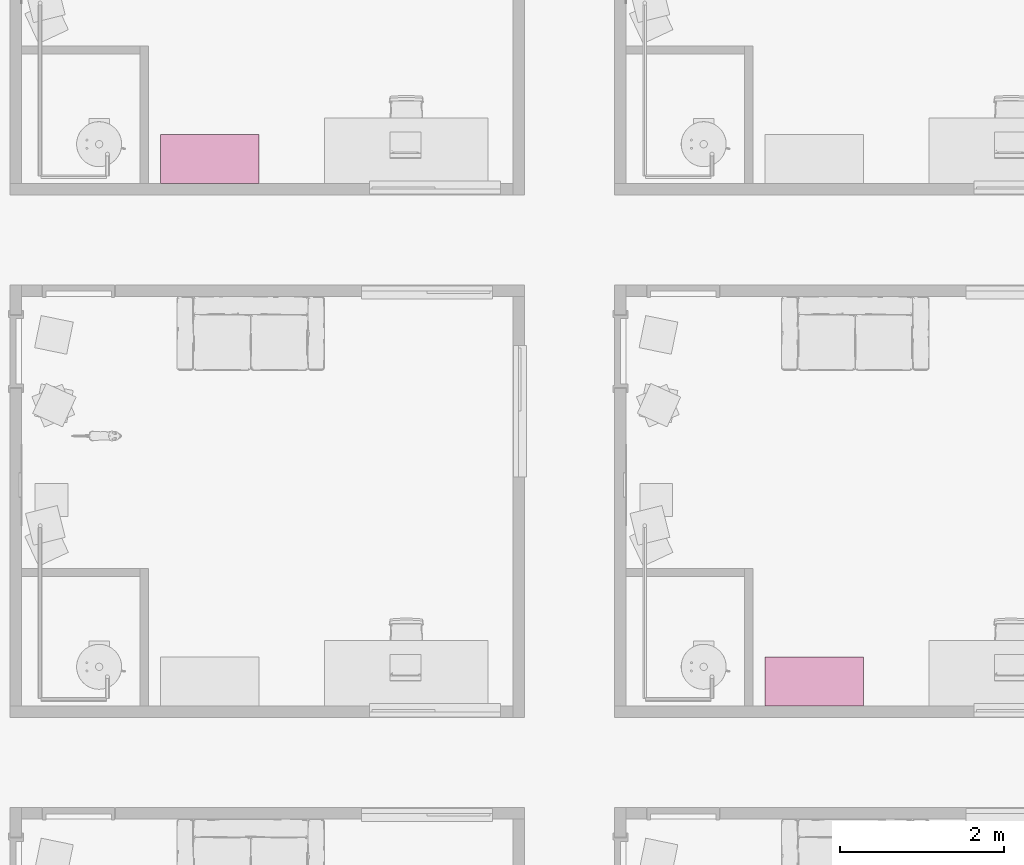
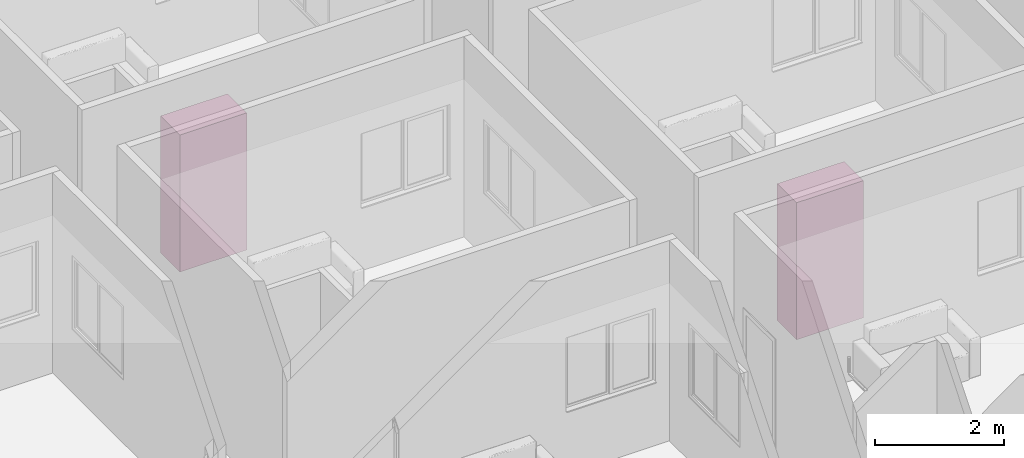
# One storey, part 69 of 71: 2 furniture elements.
"""IFC4 building model written with IfcOpenShell, lengths in centimetres."""

import ifcopenshell
import ifcopenshell.guid

model = None  # the IFC model being written
_history = None  # IfcOwnerHistory: only IFC2X3 demands one
_inside = {}  # id of a spatial element -> (the spatial element, [elements in it])
_under = {}  # id of a project, library or spatial element -> (it, [spatial elements below it])
_declared = {}  # id of a project -> (the project, [libraries it declares])
_typed = {}  # id of a type object -> (the type object, [elements of that type])
_made_of = {}  # id of a material, layer set ... -> (it, [elements and type objects made of it])


def new_model(schema):
    """Start an empty IFC model of exactly this schema.

    Asked for "IFC4X3", IfcOpenShell would pick the latest addendum, in which some entities
    have other attributes; the version numbers below select the first issue.
    IFC2X3 requires an IfcOwnerHistory on every rooted entity: one is made here for all.
    """
    global model, _history
    if schema == "IFC4X3":
        model = ifcopenshell.file(schema_version=(4, 3, 0, 0))
    else:
        model = ifcopenshell.file(schema=schema)
    _inside.clear()
    _under.clear()
    _declared.clear()
    _typed.clear()
    _made_of.clear()
    _history = None
    if model.schema == "IFC2X3":
        org = make("IfcOrganization", Name="unknown")
        user = make(
            "IfcPersonAndOrganization",
            ThePerson=make("IfcPerson", FamilyName="unknown"),
            TheOrganization=org,
        )
        app = make(
            "IfcApplication",
            ApplicationDeveloper=org,
            Version="unknown",
            ApplicationFullName="unknown",
            ApplicationIdentifier="unknown",
        )
        _history = make(
            "IfcOwnerHistory",
            OwningUser=user,
            OwningApplication=app,
            ChangeAction="ADDED",
            CreationDate=0,
        )
    return model


def make(cls, **values):
    """One entity of the class cls with the attributes given. An attribute that is None is left unset."""
    return model.create_entity(
        cls, **{name: value for name, value in values.items() if value is not None}
    )


def entity(cls, *values):
    """Any entity or typed value of the class cls, its attributes in the order of the schema. None: left unset."""
    e = model.create_entity(cls)
    for i, value in enumerate(values):
        if value is not None:
            e[i] = value
    return e


def rooted(cls, **values):
    """An entity with a GlobalId (a new one), such as an element, a storey or a relation."""
    return make(cls, GlobalId=ifcopenshell.guid.new(), OwnerHistory=_history, **values)


def si_unit(unit_type, name, prefix=None):
    """IfcSIUnit, for example si_unit("LENGTHUNIT", "METRE", prefix="MILLI")."""
    return make("IfcSIUnit", UnitType=unit_type, Prefix=prefix, Name=name)


def converted_unit(unit_type, name, factor, base, dimensions=None, offset=None):
    """IfcConversionBasedUnit, such as the inch: factor (a typed value) times the base unit."""
    return make(
        "IfcConversionBasedUnit"
        if offset is None
        else "IfcConversionBasedUnitWithOffset",
        ConversionOffset=offset,
        Dimensions=None
        if dimensions is None
        else entity("IfcDimensionalExponents", *dimensions),
        UnitType=unit_type,
        Name=name,
        ConversionFactor=make(
            "IfcMeasureWithUnit", ValueComponent=factor, UnitComponent=base
        ),
    )


def derived_unit(unit_type, elements):
    """IfcDerivedUnit: a product of units, each with its exponent."""
    return make(
        "IfcDerivedUnit",
        Elements=[
            make("IfcDerivedUnitElement", Unit=unit, Exponent=power)
            for unit, power in elements
        ],
        UnitType=unit_type,
    )


def assignment(units):
    """IfcUnitAssignment: the units of a project."""
    return None if units is None else make("IfcUnitAssignment", Units=units)


def point(xyz):
    """IfcCartesianPoint."""
    return None if xyz is None else make("IfcCartesianPoint", Coordinates=xyz)


def direction(xyz):
    """IfcDirection."""
    return None if xyz is None else make("IfcDirection", DirectionRatios=xyz)


def frame(location, z_axis=None, x_axis=None):
    """IfcAxis2Placement3D, a coordinate frame: its origin and axes. An axis left out is left unset."""
    return make(
        "IfcAxis2Placement3D",
        Location=point(location),
        Axis=direction(z_axis),
        RefDirection=direction(x_axis),
    )


def origin():
    """The frame at (0, 0, 0) with its axes left unset."""
    return frame((0.0, 0.0, 0.0))


def place(relative_to, where):
    """IfcLocalPlacement: puts the frame where relative to a parent placement (None: the world)."""
    return make(
        "IfcLocalPlacement", PlacementRelTo=relative_to, RelativePlacement=where
    )


def context(
    kind, dimensions, precision=None, world=None, true_north=None, identifier=None
):
    """IfcGeometricRepresentationContext, for example the 3D "Model" context."""
    return make(
        "IfcGeometricRepresentationContext",
        ContextIdentifier=identifier,
        ContextType=kind,
        CoordinateSpaceDimension=dimensions,
        Precision=precision,
        WorldCoordinateSystem=world,
        TrueNorth=true_north,
    )


def subcontext(parent, identifier, kind, view, scale=None):
    """IfcGeometricRepresentationSubContext, for example "Body" below "Model"."""
    return make(
        "IfcGeometricRepresentationSubContext",
        ContextIdentifier=identifier,
        ContextType=kind,
        ParentContext=parent,
        TargetScale=scale,
        TargetView=view,
    )


def project(units=None, contexts=None):
    """IfcProject with its units and contexts."""
    return rooted(
        "IfcProject",
        Name="project",
        RepresentationContexts=contexts,
        UnitsInContext=assignment(units),
    )


def spatial(cls, under=None, at=None, **own):
    """A site, building, storey or space (cls), placed at a placement, below another one or the project."""
    s = rooted(cls, ObjectPlacement=at, **own)
    if under is not None:
        _under.setdefault(under.id(), (under, []))[1].append(s)
    return s


def point_list(points):
    """IfcCartesianPointList2D or 3D."""
    cls = (
        "IfcCartesianPointList2D" if len(points[0]) == 2 else "IfcCartesianPointList3D"
    )
    return make(cls, CoordList=points)


def indexed_curve(points, segments=None, self_intersect=None):
    """IfcIndexedPolyCurve: lines and arcs through numbered points (the first is 1)."""
    return make(
        "IfcIndexedPolyCurve",
        Points=point_list(points),
        Segments=segments,
        SelfIntersect=self_intersect,
    )


def outline(outer, holes=None, kind="AREA"):
    """IfcArbitraryClosedProfileDef: a profile drawn as a closed curve; with holes, ...WithVoids."""
    if holes is None:
        return make("IfcArbitraryClosedProfileDef", ProfileType=kind, OuterCurve=outer)
    return make(
        "IfcArbitraryProfileDefWithVoids",
        ProfileType=kind,
        OuterCurve=outer,
        InnerCurves=holes,
    )


def extrude(swept, where, along, depth):
    """IfcExtrudedAreaSolid: the profile swept, set in the frame where, extruded along a direction by depth."""
    return make(
        "IfcExtrudedAreaSolid",
        SweptArea=swept,
        Position=where,
        ExtrudedDirection=direction(along),
        Depth=depth,
    )


def shape(context_of_items, identifier, shape_type, items):
    """IfcShapeRepresentation: the items that make up one representation, for example the "Body"."""
    return make(
        "IfcShapeRepresentation",
        ContextOfItems=context_of_items,
        RepresentationIdentifier=identifier,
        RepresentationType=shape_type,
        Items=items,
    )


def source(mapping_origin, context_of_items, identifier, shape_type, items):
    """IfcRepresentationMap: a shape defined once, which mapped items show again and again."""
    return make(
        "IfcRepresentationMap",
        MappingOrigin=mapping_origin,
        MappedRepresentation=shape(context_of_items, identifier, shape_type, items),
    )


def transform(
    local_origin,
    x_axis=None,
    y_axis=None,
    z_axis=None,
    scale=None,
    scale2=None,
    scale3=None,
    uniform=True,
):
    """IfcCartesianTransformationOperator3D, or its non-uniform kind. x_axis, y_axis, z_axis: its Axis1, 2, 3."""
    if uniform:
        return make(
            "IfcCartesianTransformationOperator3D",
            Axis1=direction(x_axis),
            Axis2=direction(y_axis),
            LocalOrigin=point(local_origin),
            Scale=scale,
            Axis3=direction(z_axis),
        )
    return make(
        "IfcCartesianTransformationOperator3DnonUniform",
        Axis1=direction(x_axis),
        Axis2=direction(y_axis),
        LocalOrigin=point(local_origin),
        Scale=scale,
        Axis3=direction(z_axis),
        Scale2=scale2,
        Scale3=scale3,
    )


def mapped(mapping_source, mapping_target):
    """IfcMappedItem: shows the shape of a source again, moved by a transform."""
    return make(
        "IfcMappedItem", MappingSource=mapping_source, MappingTarget=mapping_target
    )


def material(Name=None, Category=None):
    """IfcMaterial."""
    return make("IfcMaterial", Name=Name, Category=Category)


def made_of(thing, what):
    """Note that an element or type object is made of a material, layer set ...; save() writes the relation."""
    if what is not None:
        _made_of.setdefault(what.id(), (what, []))[1].append(thing)
    return thing


def type_object(cls, material=None, **own):
    """A type object (cls), such as IfcWallType, which elements share."""
    return made_of(rooted(cls, **own), material)


def type_shapes(of_type, sources):
    """Give a type object the sources (RepresentationMaps) that its elements show as mapped items."""
    of_type.RepresentationMaps = sources


def element(
    cls,
    number,
    at=None,
    inside=None,
    cuts=None,
    type_object=None,
    material=None,
    context=None,
    identifier="Body",
    shape_type=None,
    held_by="IfcProductDefinitionShape",
    body=None,
    shapes=None,
    **own,
):
    """One element of the class cls, such as IfcWall. Its Tag is "e" and its number.

    at: its placement. inside: the storey or other place that contains it. cuts: it is an
    opening in that element (IfcRelVoidsElement). A single representation is given by context,
    identifier, shape_type and body (its items); several are given by shapes. held_by: the class
    of the entity that holds the representations. save() writes the other relations.
    """
    e = rooted(cls, Tag="e%d" % number, ObjectPlacement=at, **own)
    if body is not None:
        shapes = [shape(context, identifier, shape_type, body)]
    if shapes is not None:
        e.Representation = make(held_by, Representations=shapes)
    if inside is not None:
        _inside.setdefault(inside.id(), (inside, []))[1].append(e)
    if cuts is not None:
        rooted(
            "IfcRelVoidsElement", RelatingBuildingElement=cuts, RelatedOpeningElement=e
        )
    if type_object is not None:
        _typed.setdefault(type_object.id(), (type_object, []))[1].append(e)
    return made_of(e, material)


def aggregate(whole, parts):
    """IfcRelAggregates: a whole, such as a stair, and the parts it consists of."""
    return rooted("IfcRelAggregates", RelatingObject=whole, RelatedObjects=parts)


def save(model, path):
    """Write the relations noted so far, then the file.

    IfcRelAggregates (storeys below a building ...), IfcRelContainedInSpatialStructure (elements
    in a storey), IfcRelDefinesByType, IfcRelAssociatesMaterial and IfcRelDeclares: one each for
    every whole, place, type object, material and project.
    """
    for whole, parts in _under.values():
        aggregate(whole, parts)
    for where, things in _inside.values():
        rooted(
            "IfcRelContainedInSpatialStructure",
            RelatedElements=things,
            RelatingStructure=where,
        )
    for kind, things in _typed.values():
        rooted("IfcRelDefinesByType", RelatedObjects=things, RelatingType=kind)
    for what, things in _made_of.values():
        rooted("IfcRelAssociatesMaterial", RelatedObjects=things, RelatingMaterial=what)
    for by, libraries in _declared.values():
        rooted("IfcRelDeclares", RelatingContext=by, RelatedDefinitions=libraries)
    model.write(path)


model = new_model("IFC4")

# Units and contexts
model_context = context("Model", 3, precision=0.001, world=origin(), true_north=direction((6.123233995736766e-17, 1.0)))
body_context = subcontext(model_context, "Body", "Model", "MODEL_VIEW")
ifc_project = project(units=[si_unit("LENGTHUNIT", "METRE", prefix="CENTI"), si_unit("AREAUNIT", "SQUARE_METRE"), si_unit("VOLUMEUNIT", "CUBIC_METRE"), derived_unit("THERMALTRANSMITTANCEUNIT", [(si_unit("MASSUNIT", "GRAM", prefix="KILO"), 1), (si_unit("THERMODYNAMICTEMPERATUREUNIT", "KELVIN"), -1), (si_unit("TIMEUNIT", "SECOND"), -3)]), converted_unit("PLANEANGLEUNIT", "DEGREE", entity("IfcPlaneAngleMeasure", 0.017453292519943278), si_unit("PLANEANGLEUNIT", "RADIAN"), dimensions=[0, 0, 0, 0, 0, 0, 0]), derived_unit("MASSDENSITYUNIT", [(si_unit("MASSUNIT", "GRAM", prefix="KILO"), 1), (si_unit("LENGTHUNIT", "METRE"), -3)]), derived_unit("VAPORPERMEABILITYUNIT", [(si_unit("LENGTHUNIT", "METRE"), -1), (si_unit("TIMEUNIT", "SECOND"), 1)]), derived_unit("USERDEFINED", [(si_unit("MASSUNIT", "GRAM", prefix="KILO"), 1), (si_unit("TIMEUNIT", "SECOND"), -3), (si_unit("LENGTHUNIT", "METRE"), 3), (si_unit("ELECTRICCURRENTUNIT", "AMPERE"), -2)]), derived_unit("SPECIFICHEATCAPACITYUNIT", [(si_unit("THERMODYNAMICTEMPERATUREUNIT", "KELVIN"), -1), (si_unit("LENGTHUNIT", "METRE"), 2), (si_unit("TIMEUNIT", "SECOND"), -2)]), derived_unit("THERMALCONDUCTANCEUNIT", [(si_unit("MASSUNIT", "GRAM", prefix="KILO"), 1), (si_unit("THERMODYNAMICTEMPERATUREUNIT", "KELVIN"), -1), (si_unit("TIMEUNIT", "SECOND"), -3), (si_unit("LENGTHUNIT", "METRE"), 1)]), si_unit("PRESSUREUNIT", "PASCAL"), derived_unit("MODULUSOFELASTICITYUNIT", [(si_unit("MASSUNIT", "GRAM", prefix="KILO"), 1), (si_unit("LENGTHUNIT", "METRE"), -1), (si_unit("TIMEUNIT", "SECOND"), -2)]), derived_unit("THERMALEXPANSIONCOEFFICIENTUNIT", [(si_unit("THERMODYNAMICTEMPERATUREUNIT", "KELVIN"), -1)])], contexts=[model_context])

# Site, building, storey, space
site_placement = place(None, origin())
site = spatial("IfcSite", under=ifc_project, at=site_placement, Name="Default", CompositionType="ELEMENT")
building_placement = place(site_placement, origin())
building = spatial("IfcBuilding", under=site, at=building_placement, Name="IDS Escape Game Building", CompositionType="ELEMENT")
storey_placement = place(building_placement, frame((0.0, 0.0, 400.0)))
storey = spatial("IfcBuildingStorey", under=building, at=storey_placement, Name="01_First Floor", CompositionType="ELEMENT", Elevation=399.99999999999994)
space_1_placement = place(storey_placement, origin())
space_1 = spatial("IfcSpace", under=storey, at=space_1_placement, Name="62", CompositionType="ELEMENT", PredefinedType="NOTDEFINED")

# Furniture
ifc_material = material(Name="<Unnamed>")
furniture_type = type_object("IfcFurnitureType", Name="BPL_82.11_CA_UN_kast_gen_BERSnl:type 1", AssemblyPlace="NOTDEFINED", PredefinedType="NOTDEFINED", material=ifc_material)
shared_shape = source(origin(), body_context, "Body", "SweptSolid", [
    extrude(outline(indexed_curve([(-59.99999999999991, -29.999999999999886), (59.99999999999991, -29.999999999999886), (59.99999999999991, 29.999999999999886), (-59.99999999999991, 29.999999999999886), (-59.99999999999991, -29.999999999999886)], self_intersect=False)), frame((-60.0, -30.0, 0.0), z_axis=(0.0, 0.0, 1.0), x_axis=(-1.0, 0.0, 0.0)), (0.0, 0.0, 1.0), 260.0),
])
type_shapes(furniture_type, [shared_shape])
furniture_1_placement = place(space_1_placement, frame((3987.0, 1987.0, 0.0)))
element("IfcFurniture", 1, at=furniture_1_placement, inside=space_1, type_object=furniture_type, material=ifc_material, Name="BPL_82.11_CA_UN_kast_gen_BERSnl:type 1", ObjectType="BPL_82.11_CA_UN_kast_gen_BERSnl:type 1", PredefinedType="NOTDEFINED", context=body_context, shape_type="MappedRepresentation", body=[
    mapped(shared_shape, transform((0.0, 0.0, 0.0), scale=1.0)),
])

# Space
space_2_placement = place(storey_placement, origin())
space_2 = spatial("IfcSpace", under=storey, at=space_2_placement, Name="68", CompositionType="ELEMENT", PredefinedType="NOTDEFINED")

# Furniture
furniture_2_placement = place(space_2_placement, frame((3249.0, 2625.0, 0.0)))
element("IfcFurniture", 2, at=furniture_2_placement, inside=space_2, type_object=furniture_type, material=ifc_material, Name="BPL_82.11_CA_UN_kast_gen_BERSnl:type 1", ObjectType="BPL_82.11_CA_UN_kast_gen_BERSnl:type 1", PredefinedType="NOTDEFINED", context=body_context, shape_type="MappedRepresentation", body=[
    mapped(shared_shape, transform((0.0, 0.0, 0.0), scale=1.0)),
])

save(model, "model.ifc")
